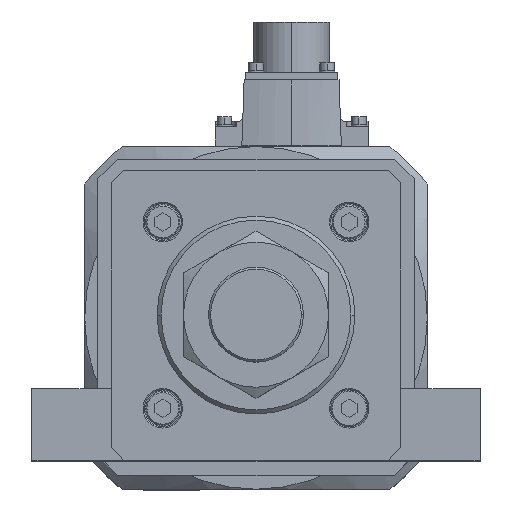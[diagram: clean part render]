
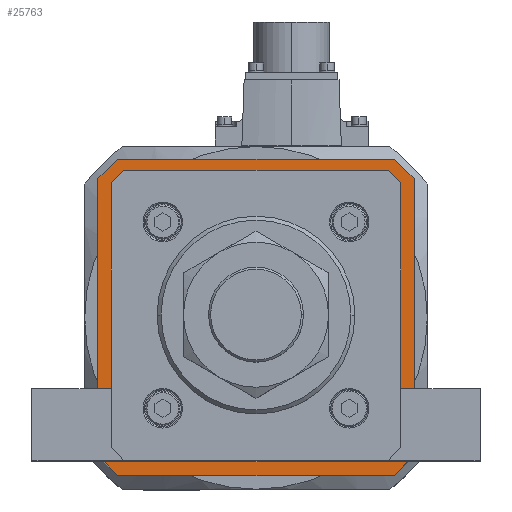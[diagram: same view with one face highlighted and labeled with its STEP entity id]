
A CAD part, top view. The second image highlights one B-rep face of the part: STEP entity #25763.
In plain terms, the highlighted planar face has unit normal (0, 0, 1).
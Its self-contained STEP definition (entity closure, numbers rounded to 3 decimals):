
#190 = ORIENTED_EDGE ( 'NONE', *, *, #21469, .F. ) ;
#377 = VECTOR ( 'NONE', #15683, 1000. ) ;
#394 = EDGE_CURVE ( 'NONE', #11158, #36695, #33498, .T. ) ;
#753 = EDGE_CURVE ( 'NONE', #23242, #9831, #33016, .T. ) ;
#799 = DIRECTION ( 'NONE',  ( -1., 0., 0. ) ) ;
#862 = ORIENTED_EDGE ( 'NONE', *, *, #5354, .F. ) ;
#944 = AXIS2_PLACEMENT_3D ( 'NONE', #13968, #16975, #19534 ) ;
#1072 = ORIENTED_EDGE ( 'NONE', *, *, #10847, .F. ) ;
#1203 = LINE ( 'NONE', #20040, #35413 ) ;
#1491 = CARTESIAN_POINT ( 'NONE',  ( 60., -52.5, -119. ) ) ;
#2028 = CARTESIAN_POINT ( 'NONE',  ( 49.446, -53.646, -119. ) ) ;
#2180 = ORIENTED_EDGE ( 'NONE', *, *, #29683, .T. ) ;
#2353 = CARTESIAN_POINT ( 'NONE',  ( -53.5, 49.8, -119. ) ) ;
#3488 = VERTEX_POINT ( 'NONE', #18509 ) ;
#3489 = DIRECTION ( 'NONE',  ( -0.707, 0.707, 0. ) ) ;
#3912 = VECTOR ( 'NONE', #8513, 1000. ) ;
#3945 = CARTESIAN_POINT ( 'NONE',  ( 53.5, 49.593, -119. ) ) ;
#4040 = FACE_BOUND ( 'NONE', #6993, .T. ) ;
#4163 = VERTEX_POINT ( 'NONE', #1491 ) ;
#4607 = EDGE_CURVE ( 'NONE', #36695, #13688, #33606, .T. ) ;
#4871 = CARTESIAN_POINT ( 'NONE',  ( 52.5, 60., -119. ) ) ;
#5111 = CARTESIAN_POINT ( 'NONE',  ( 49.593, -53.5, -119. ) ) ;
#5147 = CARTESIAN_POINT ( 'NONE',  ( 60., 52.5, -119. ) ) ;
#5297 = ORIENTED_EDGE ( 'NONE', *, *, #11099, .F. ) ;
#5354 = EDGE_CURVE ( 'NONE', #3488, #10919, #11722, .T. ) ;
#5620 = CARTESIAN_POINT ( 'NONE',  ( 60., 52.5, -119. ) ) ;
#6116 = VECTOR ( 'NONE', #13935, 1000. ) ;
#6410 = LINE ( 'NONE', #21007, #34661 ) ;
#6841 = CARTESIAN_POINT ( 'NONE',  ( -52.5, 60., -119. ) ) ;
#6888 = VECTOR ( 'NONE', #3489, 1000. ) ;
#6955 = DIRECTION ( 'NONE',  ( 0.707, 0.707, 0. ) ) ;
#6957 = CARTESIAN_POINT ( 'NONE',  ( 49.593, 53.5, -119. ) ) ;
#6993 = EDGE_LOOP ( 'NONE', ( #36890, #7082, #21973, #2180, #8184, #23941, #32688, #23677 ) ) ;
#7042 = VECTOR ( 'NONE', #26696, 1000. ) ;
#7056 = CARTESIAN_POINT ( 'NONE',  ( -53.5, -49.593, -119. ) ) ;
#7082 = ORIENTED_EDGE ( 'NONE', *, *, #29365, .T. ) ;
#7475 = LINE ( 'NONE', #2028, #6116 ) ;
#7601 = CARTESIAN_POINT ( 'NONE',  ( -53.5, 49.593, -119. ) ) ;
#7760 = VECTOR ( 'NONE', #37235, 1000. ) ;
#7794 = LINE ( 'NONE', #9232, #22377 ) ;
#8020 = EDGE_CURVE ( 'NONE', #9831, #3488, #18060, .T. ) ;
#8184 = ORIENTED_EDGE ( 'NONE', *, *, #32419, .T. ) ;
#8513 = DIRECTION ( 'NONE',  ( 1., 0., 0. ) ) ;
#8653 = VERTEX_POINT ( 'NONE', #36091 ) ;
#9001 = CARTESIAN_POINT ( 'NONE',  ( -49.8, -53.5, -119. ) ) ;
#9116 = LINE ( 'NONE', #5620, #12821 ) ;
#9232 = CARTESIAN_POINT ( 'NONE',  ( 52.5, -60., -119. ) ) ;
#9831 = VERTEX_POINT ( 'NONE', #18715 ) ;
#10364 = CARTESIAN_POINT ( 'NONE',  ( -52.5, -60., -119. ) ) ;
#10847 = EDGE_CURVE ( 'NONE', #24198, #23242, #14687, .T. ) ;
#10919 = VERTEX_POINT ( 'NONE', #4871 ) ;
#11099 = EDGE_CURVE ( 'NONE', #10919, #34987, #28740, .T. ) ;
#11158 = VERTEX_POINT ( 'NONE', #22201 ) ;
#11597 = DIRECTION ( 'NONE',  ( 1., 0., 0. ) ) ;
#11722 = LINE ( 'NONE', #36233, #3912 ) ;
#12469 = DIRECTION ( 'NONE',  ( 0., 1., 0. ) ) ;
#12472 = CARTESIAN_POINT ( 'NONE',  ( 53.646, 49.446, -119. ) ) ;
#12821 = VECTOR ( 'NONE', #20281, 1000. ) ;
#13688 = VERTEX_POINT ( 'NONE', #7601 ) ;
#13702 = VECTOR ( 'NONE', #23870, 1000. ) ;
#13935 = DIRECTION ( 'NONE',  ( -0.707, -0.707, 0. ) ) ;
#13968 = CARTESIAN_POINT ( 'NONE',  ( 0., 0., -119. ) ) ;
#13973 = ORIENTED_EDGE ( 'NONE', *, *, #37702, .F. ) ;
#14124 = DIRECTION ( 'NONE',  ( 0., 1., 0. ) ) ;
#14469 = EDGE_CURVE ( 'NONE', #34987, #4163, #9116, .T. ) ;
#14687 = LINE ( 'NONE', #29492, #6888 ) ;
#14791 = CARTESIAN_POINT ( 'NONE',  ( 49.8, 53.5, -119. ) ) ;
#14831 = LINE ( 'NONE', #12472, #7042 ) ;
#15683 = DIRECTION ( 'NONE',  ( -0.707, -0.707, 0. ) ) ;
#16161 = EDGE_CURVE ( 'NONE', #13688, #36565, #1203, .T. ) ;
#16617 = VECTOR ( 'NONE', #12469, 1000. ) ;
#16800 = LINE ( 'NONE', #32954, #377 ) ;
#16975 = DIRECTION ( 'NONE',  ( 0., 0., 1. ) ) ;
#18060 = LINE ( 'NONE', #6841, #18543 ) ;
#18509 = CARTESIAN_POINT ( 'NONE',  ( -52.5, 60., -119. ) ) ;
#18543 = VECTOR ( 'NONE', #6955, 1000. ) ;
#18715 = CARTESIAN_POINT ( 'NONE',  ( -60., 52.5, -119. ) ) ;
#19070 = VECTOR ( 'NONE', #14124, 1000. ) ;
#19534 = DIRECTION ( 'NONE',  ( 1., 0., 0. ) ) ;
#19776 = PLANE ( 'NONE',  #944 ) ;
#20040 = CARTESIAN_POINT ( 'NONE',  ( -49.446, 53.646, -119. ) ) ;
#20281 = DIRECTION ( 'NONE',  ( 0., -1., 0. ) ) ;
#20304 = CARTESIAN_POINT ( 'NONE',  ( 60., 52.5, -119. ) ) ;
#20547 = DIRECTION ( 'NONE',  ( 0.707, 0.707, 0. ) ) ;
#21007 = CARTESIAN_POINT ( 'NONE',  ( 53.5, -49.8, -119. ) ) ;
#21469 = EDGE_CURVE ( 'NONE', #26668, #24198, #7794, .T. ) ;
#21497 = CARTESIAN_POINT ( 'NONE',  ( 52.5, -60., -119. ) ) ;
#21742 = EDGE_LOOP ( 'NONE', ( #862, #30111, #30056, #1072, #190, #13973, #25803, #5297 ) ) ;
#21973 = ORIENTED_EDGE ( 'NONE', *, *, #31412, .T. ) ;
#22201 = CARTESIAN_POINT ( 'NONE',  ( -49.593, -53.5, -119. ) ) ;
#22283 = FACE_OUTER_BOUND ( 'NONE', #21742, .T. ) ;
#22377 = VECTOR ( 'NONE', #799, 1000. ) ;
#23242 = VERTEX_POINT ( 'NONE', #28243 ) ;
#23677 = ORIENTED_EDGE ( 'NONE', *, *, #16161, .T. ) ;
#23870 = DIRECTION ( 'NONE',  ( -1., 0., 0. ) ) ;
#23941 = ORIENTED_EDGE ( 'NONE', *, *, #394, .T. ) ;
#24198 = VERTEX_POINT ( 'NONE', #10364 ) ;
#25386 = DIRECTION ( 'NONE',  ( -0.707, 0.707, 0. ) ) ;
#25741 = VECTOR ( 'NONE', #25386, 1000. ) ;
#25763 = ADVANCED_FACE ( 'NONE', ( #4040, #22283 ), #19776, .T. ) ;
#25803 = ORIENTED_EDGE ( 'NONE', *, *, #14469, .F. ) ;
#26484 = EDGE_CURVE ( 'NONE', #36565, #26651, #31790, .T. ) ;
#26651 = VERTEX_POINT ( 'NONE', #6957 ) ;
#26668 = VERTEX_POINT ( 'NONE', #21497 ) ;
#26696 = DIRECTION ( 'NONE',  ( 0.707, -0.707, 0. ) ) ;
#28243 = CARTESIAN_POINT ( 'NONE',  ( -60., -52.5, -119. ) ) ;
#28740 = LINE ( 'NONE', #20304, #7760 ) ;
#29365 = EDGE_CURVE ( 'NONE', #26651, #35792, #14831, .T. ) ;
#29492 = CARTESIAN_POINT ( 'NONE',  ( -52.5, -60., -119. ) ) ;
#29683 = EDGE_CURVE ( 'NONE', #8653, #35626, #7475, .T. ) ;
#30056 = ORIENTED_EDGE ( 'NONE', *, *, #753, .F. ) ;
#30111 = ORIENTED_EDGE ( 'NONE', *, *, #8020, .F. ) ;
#30843 = CARTESIAN_POINT ( 'NONE',  ( -53.646, -49.446, -119. ) ) ;
#31412 = EDGE_CURVE ( 'NONE', #35792, #8653, #6410, .T. ) ;
#31790 = LINE ( 'NONE', #14791, #32711 ) ;
#32066 = DIRECTION ( 'NONE',  ( 0., -1., 0. ) ) ;
#32419 = EDGE_CURVE ( 'NONE', #35626, #11158, #35975, .T. ) ;
#32688 = ORIENTED_EDGE ( 'NONE', *, *, #4607, .T. ) ;
#32711 = VECTOR ( 'NONE', #11597, 1000. ) ;
#32954 = CARTESIAN_POINT ( 'NONE',  ( 60., -52.5, -119. ) ) ;
#33016 = LINE ( 'NONE', #35852, #16617 ) ;
#33498 = LINE ( 'NONE', #30843, #25741 ) ;
#33606 = LINE ( 'NONE', #2353, #19070 ) ;
#34569 = CARTESIAN_POINT ( 'NONE',  ( -49.593, 53.5, -119. ) ) ;
#34661 = VECTOR ( 'NONE', #32066, 1000. ) ;
#34987 = VERTEX_POINT ( 'NONE', #5147 ) ;
#35413 = VECTOR ( 'NONE', #20547, 1000. ) ;
#35626 = VERTEX_POINT ( 'NONE', #5111 ) ;
#35792 = VERTEX_POINT ( 'NONE', #3945 ) ;
#35852 = CARTESIAN_POINT ( 'NONE',  ( -60., 52.5, -119. ) ) ;
#35975 = LINE ( 'NONE', #9001, #13702 ) ;
#36091 = CARTESIAN_POINT ( 'NONE',  ( 53.5, -49.593, -119. ) ) ;
#36233 = CARTESIAN_POINT ( 'NONE',  ( 52.5, 60., -119. ) ) ;
#36565 = VERTEX_POINT ( 'NONE', #34569 ) ;
#36695 = VERTEX_POINT ( 'NONE', #7056 ) ;
#36890 = ORIENTED_EDGE ( 'NONE', *, *, #26484, .T. ) ;
#37235 = DIRECTION ( 'NONE',  ( 0.707, -0.707, 0. ) ) ;
#37702 = EDGE_CURVE ( 'NONE', #4163, #26668, #16800, .T. ) ;
